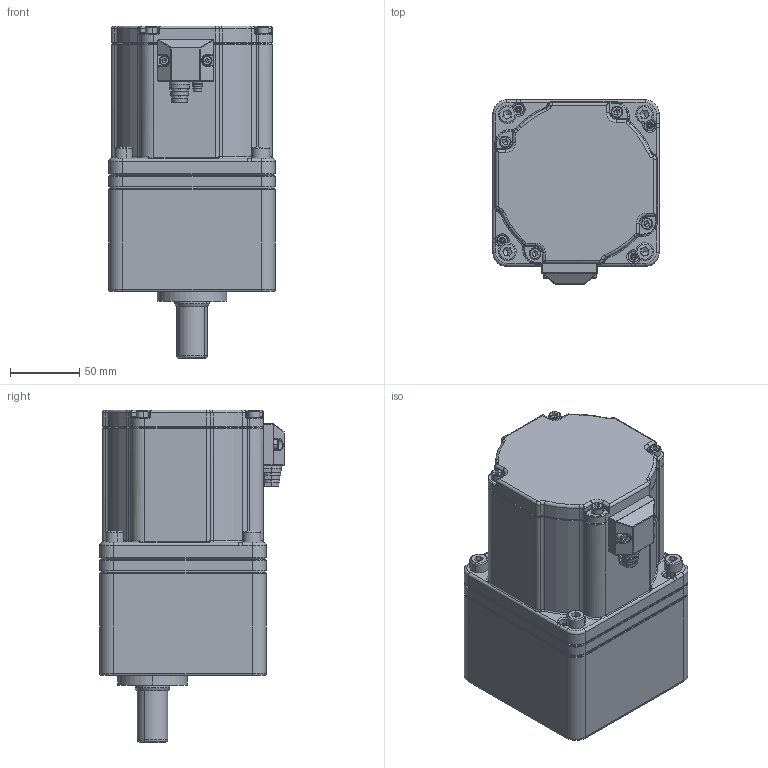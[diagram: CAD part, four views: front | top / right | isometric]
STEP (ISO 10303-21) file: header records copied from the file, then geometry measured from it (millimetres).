
FILE_DESCRIPTION (( 'STEP AP203' ), '1' );
FILE_NAME ('7GUV整理低压三维.STEP', '2018-05-27T01:16:06', ( 'Windows 用户' ), ( 'Organization' ), 'SwSTEP 2.0', 'SolidWorks 2019', '' );
FILE_SCHEMA (( 'CONFIG_CONTROL_DESIGN' ));
Length unit declared in the file: millimetre
Products named in the file (16): 7GU护线圈大; ZD-7GUV-568-001#漪蚐菜え; 7GU护线圈小; NKI1216幗渀粣創; ______.2^7GUL实心三维高压(2)_7GUL实心三维低压; hexagon socket head cap screws gb_GB_FASTENER_SCREWS_HSHCS M4X8-N; 7GUV; ____.2^7GUL实心三维高压(2)_7GUL实心三维低压; hexagon socket head cap screws gb_GB_FASTENER_SCREWS_HSHCS M8X30-N; 7GUV整理低压三维; hexagon socket head cap screws gb_GB_FASTENER_SCREWS_HSHCS M5X16-N^7GUL实心三维高压(2)_7GUL实心三维低压; ZD-7GUV-504-001#眊极; 7GUL实心三维高压(2)^7GUL实心三维低压; ZD-7GUV-505-001#眊裔; 7GU堤盄嘐隅殤; ZD-7GUV-525-001#煦极宒怀堤粣
Assembly tree (22 placements, depth 3):
  7GUV整理低压三维
    7GUL实心三维高压(2)^7GUL实心三维低压
      ______.2^7GUL实心三维高压(2)_7GUL实心三维低压
      ____.2^7GUL实心三维高压(2)_7GUL实心三维低压
      hexagon socket head cap screws gb_GB_FASTENER_SCREWS_HSHCS M5X16-N^7GUL实心三维高压(2)_7GUL实心三维低压  x4
    7GU堤盄嘐隅殤
    7GU护线圈大
    7GU护线圈小
    hexagon socket head cap screws gb_GB_FASTENER_SCREWS_HSHCS M4X8-N  x2
    hexagon socket head cap screws gb_GB_FASTENER_SCREWS_HSHCS M8X30-N  x4
    7GUV
      ZD-7GUV-504-001#眊极
      ZD-7GUV-505-001#眊裔
      ZD-7GUV-525-001#煦极宒怀堤粣
      ZD-7GUV-568-001#漪蚐菜え
      NKI1216幗渀粣創
Bounding box: 120 x 133 x 239.5 mm (x, y, z)
Volume: 1760420.9 mm3; surface area: 298900.2 mm2
Topology: 20 solids, 21 shells, 1926 faces, 4825 edges, 2965 vertices
Faces by surface type: plane 818, cylinder 528, bspline 236, cone 161, torus 157, sphere 26
Entity records: 63674 total; most frequent: CARTESIAN_POINT 20651, ORIENTED_EDGE 8746, DIRECTION 8386, EDGE_CURVE 4373, AXIS2_PLACEMENT_3D 3024, VERTEX_POINT 2734, VECTOR 2338, LINE 2338
